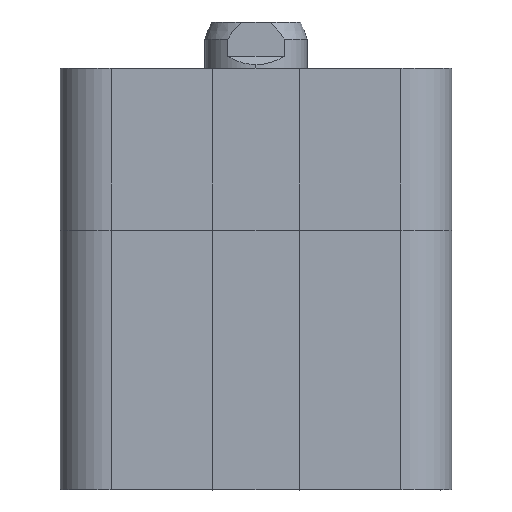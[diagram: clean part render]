
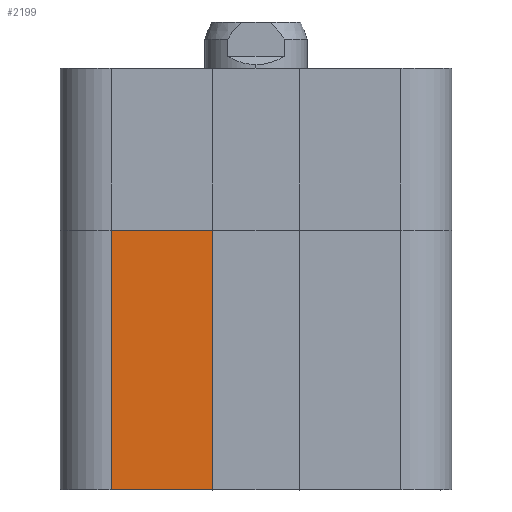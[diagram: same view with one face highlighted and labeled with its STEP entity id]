
A CAD part, front view. The second image highlights one B-rep face of the part: STEP entity #2199.
In plain terms, the highlighted planar face has unit normal (0, -1, 0).
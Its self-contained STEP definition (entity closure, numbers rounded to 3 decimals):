
#698 = VECTOR ( 'NONE', #1732, 1000. ) ;
#906 = EDGE_CURVE ( 'NONE', #10321, #1920, #5649, .T. ) ;
#1135 = AXIS2_PLACEMENT_3D ( 'NONE', #7630, #9509, #1939 ) ;
#1732 = DIRECTION ( 'NONE',  ( 1., 0., 0. ) ) ;
#1920 = VERTEX_POINT ( 'NONE', #5806 ) ;
#1939 = DIRECTION ( 'NONE',  ( 0., 0., -1. ) ) ;
#2199 = ADVANCED_FACE ( 'NONE', ( #6138 ), #5798, .F. ) ;
#2240 = DIRECTION ( 'NONE',  ( 0., 0., -1. ) ) ;
#2374 = EDGE_CURVE ( 'NONE', #1920, #3263, #11463, .T. ) ;
#3226 = CARTESIAN_POINT ( 'NONE',  ( -13.307, 0., -36.453 ) ) ;
#3263 = VERTEX_POINT ( 'NONE', #5657 ) ;
#4050 = CARTESIAN_POINT ( 'NONE',  ( -41.382, 0., -5.953 ) ) ;
#4170 = DIRECTION ( 'NONE',  ( 1., 0., 0. ) ) ;
#4217 = DIRECTION ( 'NONE',  ( 0., 0., 1. ) ) ;
#5091 = CARTESIAN_POINT ( 'NONE',  ( -53.307, 0., -5.953 ) ) ;
#5405 = ORIENTED_EDGE ( 'NONE', *, *, #10445, .F. ) ;
#5649 = LINE ( 'NONE', #5917, #11238 ) ;
#5657 = CARTESIAN_POINT ( 'NONE',  ( -41.382, 0., -36.453 ) ) ;
#5798 = PLANE ( 'NONE',  #1135 ) ;
#5806 = CARTESIAN_POINT ( 'NONE',  ( -53.307, 0., -36.453 ) ) ;
#5917 = CARTESIAN_POINT ( 'NONE',  ( -53.307, 0., 3.047 ) ) ;
#6138 = FACE_OUTER_BOUND ( 'NONE', #10760, .T. ) ;
#6786 = ORIENTED_EDGE ( 'NONE', *, *, #906, .T. ) ;
#7141 = VECTOR ( 'NONE', #4217, 1000. ) ;
#7171 = CARTESIAN_POINT ( 'NONE',  ( -53.307, 0., -5.953 ) ) ;
#7630 = CARTESIAN_POINT ( 'NONE',  ( -13.307, 0., 3.047 ) ) ;
#7806 = CARTESIAN_POINT ( 'NONE',  ( -41.382, 0., -36.453 ) ) ;
#8803 = EDGE_CURVE ( 'NONE', #3263, #10112, #9896, .T. ) ;
#8804 = ORIENTED_EDGE ( 'NONE', *, *, #2374, .T. ) ;
#9509 = DIRECTION ( 'NONE',  ( 0., 1., 0. ) ) ;
#9896 = LINE ( 'NONE', #7806, #7141 ) ;
#10112 = VERTEX_POINT ( 'NONE', #4050 ) ;
#10201 = VECTOR ( 'NONE', #4170, 1000. ) ;
#10321 = VERTEX_POINT ( 'NONE', #5091 ) ;
#10445 = EDGE_CURVE ( 'NONE', #10321, #10112, #10981, .T. ) ;
#10760 = EDGE_LOOP ( 'NONE', ( #11579, #5405, #6786, #8804 ) ) ;
#10981 = LINE ( 'NONE', #7171, #698 ) ;
#11238 = VECTOR ( 'NONE', #2240, 1000. ) ;
#11463 = LINE ( 'NONE', #3226, #10201 ) ;
#11579 = ORIENTED_EDGE ( 'NONE', *, *, #8803, .T. ) ;
